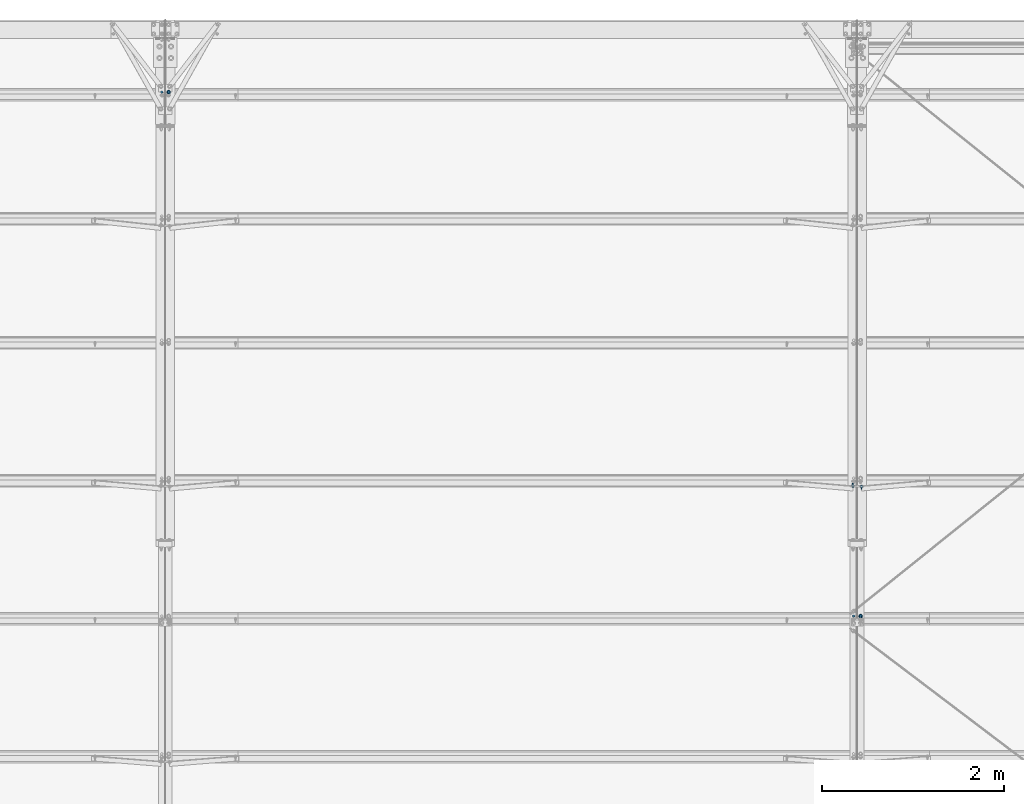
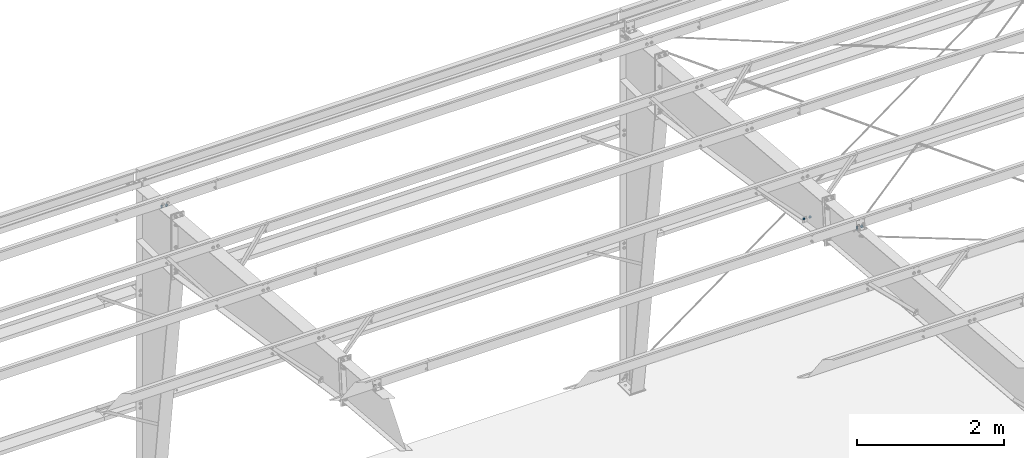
# One storey, part 162 of 185: 6 mechanical fasteners, 4 elements without a shape of their own.
"""IFC2X3 building model written with IfcOpenShell, lengths in millimetres."""

from ifc_helpers import new_model, si_unit, frame, origin_with_axes, origin_2d_with_axis, place, context, subcontext, project, spatial, polyline, circle, outline, extrude, source, transform, mapped, material, type_object, element, aggregate, save


model = new_model("IFC2X3")

# Units and contexts
model_context = context("Model", 3, precision=1e-05, world=origin_with_axes())
body_context = subcontext(model_context, "Body", "Model", "MODEL_VIEW")
ifc_project = project(units=[si_unit("LENGTHUNIT", "METRE", prefix="MILLI"), si_unit("AREAUNIT", "SQUARE_METRE"), si_unit("VOLUMEUNIT", "CUBIC_METRE"), si_unit("MASSUNIT", "GRAM", prefix="KILO"), si_unit("TIMEUNIT", "SECOND"), si_unit("PLANEANGLEUNIT", "RADIAN"), si_unit("SOLIDANGLEUNIT", "STERADIAN"), si_unit("THERMODYNAMICTEMPERATUREUNIT", "DEGREE_CELSIUS"), si_unit("LUMINOUSINTENSITYUNIT", "LUMEN")], contexts=[model_context])

# Site, building, storey
site_placement = place(None, origin_with_axes())
site = spatial("IfcSite", under=ifc_project, at=site_placement, Name="Undefined", CompositionType="ELEMENT")
building_placement = place(site_placement, origin_with_axes())
building = spatial("IfcBuilding", under=site, at=building_placement, Name="Undefined", CompositionType="ELEMENT")
storey_placement = place(building_placement, origin_with_axes())
storey = spatial("IfcBuildingStorey", under=building, at=storey_placement, Name="Undefined", CompositionType="ELEMENT", Elevation=0.0)

# Assembly, mechanical fastener
assembly_1_placement = place(storey_placement, origin_with_axes())
assembly_1 = element("IfcElementAssembly", 1, at=assembly_1_placement, inside=storey, Name="Steel Assembly", AssemblyPlace="NOTDEFINED", PredefinedType="RIGID_FRAME")
ifc_material = material(Name="Undefined")
discrete_accessory_type = type_object("IfcDiscreteAccessoryType", Name="Bolt assembly")
shared_shape_1 = source(origin_with_axes(), body_context, "Body", "SweptSolid", [
    extrude(circle(Radius=7.14374971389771, at=origin_2d_with_axis()), frame((0.0, -1.59000001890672, 0.0), z_axis=(0.0, 1.0, 0.0), x_axis=(1.0, 0.0, 0.0)), (0.0, 0.0, 1.0), 1.7),
    extrude(outline(polyline([(10.9985221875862, 0.0), (5.4992610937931, 9.52499961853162), (-5.4992610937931, 9.52499961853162), (-10.9985221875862, 0.0), (-5.4992610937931, -9.52499961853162), (5.4992610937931, -9.52499961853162), (10.9985221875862, 0.0)])), frame((0.0, -15.0837496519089, 0.0), z_axis=(0.0, 1.0, 0.0), x_axis=(1.0, 0.0, 0.0)), (0.0, 0.0, 1.0), 9.5),
    extrude(circle(Radius=6.34999990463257, at=origin_2d_with_axis()), frame((0.0, -5.5587500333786, 0.0), z_axis=(0.0, 1.0, 0.0), x_axis=(1.0, 0.0, 0.0)), (0.0, 0.0, 1.0), 38.1),
    extrude(circle(Radius=13.4937496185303, at=origin_2d_with_axis()), frame((0.0, -5.5587500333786, 0.0), z_axis=(0.0, 1.0, 0.0), x_axis=(1.0, 0.0, 0.0)), (0.0, 0.0, 1.0), 4.0),
    extrude(circle(Radius=22.2250003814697, at=origin_2d_with_axis()), frame((0.0, 0.0, 0.0), z_axis=(0.0, 1.0, 0.0), x_axis=(1.0, 0.0, 0.0)), (0.0, 0.0, 1.0), 7.9),
    extrude(outline(polyline([(12.8316099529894, 0.0), (6.4158049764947, 11.1125001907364), (-6.4158049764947, 11.1125001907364), (-12.8316099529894, 0.0), (-6.4158049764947, -11.1125001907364), (6.4158049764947, -11.1125001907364), (12.8316099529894, 0.0)])), frame((0.0, 7.93750000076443, 0.0), z_axis=(0.0, 1.0, 0.0), x_axis=(1.0, 0.0, 0.0)), (0.0, 0.0, 1.0), 12.3),
])
mechanical_fastener_1_placement = place(assembly_1_placement, frame((30051.4738455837, 26870.2303027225, 5718.25976911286), z_axis=(-0.718860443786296, -0.0577294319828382, -0.692753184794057), x_axis=(-0.695154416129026, 0.0596981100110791, 0.716377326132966)))
mechanical_fastener_1 = element("IfcMechanicalFastener", 2, at=mechanical_fastener_1_placement, type_object=discrete_accessory_type, material=ifc_material, Name="Bolt assembly", NominalDiameter=12.6999998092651, NominalLength=38.0999984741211, context=body_context, shape_type="MappedRepresentation", body=[
    mapped(shared_shape_1, transform((0.0, 0.0, 0.0))),
])
aggregate(assembly_1, [mechanical_fastener_1])

assembly_2_placement = place(storey_placement, origin_with_axes())
assembly_2 = element("IfcElementAssembly", 3, at=assembly_2_placement, inside=storey, Name="Steel Assembly", AssemblyPlace="NOTDEFINED", PredefinedType="RIGID_FRAME")
shared_shape_2 = source(origin_with_axes(), body_context, "Body", "SweptSolid", [
    extrude(circle(Radius=7.14374971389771, at=origin_2d_with_axis()), frame((0.0, 0.0, 0.0), z_axis=(0.0, 1.0, 0.0), x_axis=(1.0, 0.0, 0.0)), (0.0, 0.0, 1.0), 1.7),
    extrude(outline(polyline([(10.9985221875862, 0.0), (5.4992610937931, 9.52499961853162), (-5.4992610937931, 9.52499961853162), (-10.9985221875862, 0.0), (-5.4992610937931, -9.52499961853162), (5.4992610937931, -9.52499961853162), (10.9985221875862, 0.0)])), frame((0.0, -13.4937496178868, 0.0), z_axis=(0.0, 1.0, 0.0), x_axis=(1.0, 0.0, 0.0)), (0.0, 0.0, 1.0), 9.5),
    extrude(circle(Radius=6.34999990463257, at=origin_2d_with_axis()), frame((0.0, -3.96874999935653, 0.0), z_axis=(0.0, 1.0, 0.0), x_axis=(1.0, 0.0, 0.0)), (0.0, 0.0, 1.0), 38.1),
    extrude(circle(Radius=13.4937496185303, at=origin_2d_with_axis()), frame((0.0, -3.96874999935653, 0.0), z_axis=(0.0, 1.0, 0.0), x_axis=(1.0, 0.0, 0.0)), (0.0, 0.0, 1.0), 4.0),
    extrude(circle(Radius=22.2250003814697, at=origin_2d_with_axis()), frame((0.0, 1.5900000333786, 0.0), z_axis=(0.0, 1.0, 0.0), x_axis=(1.0, 0.0, 0.0)), (0.0, 0.0, 1.0), 7.9),
    extrude(outline(polyline([(12.8316099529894, 0.0), (6.4158049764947, 11.1125001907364), (-6.4158049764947, 11.1125001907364), (-12.8316099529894, 0.0), (-6.4158049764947, -11.1125001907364), (6.4158049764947, -11.1125001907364), (12.8316099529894, 0.0)])), frame((0.0, 9.5275000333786, 0.0), z_axis=(0.0, 1.0, 0.0), x_axis=(1.0, 0.0, 0.0)), (0.0, 0.0, 1.0), 12.3),
])
mechanical_fastener_2_placement = place(assembly_2_placement, frame((30146.5261544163, 26870.2303027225, 5718.25976911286), z_axis=(0.718860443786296, -0.0577294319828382, -0.692753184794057), x_axis=(0.695154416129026, 0.0596981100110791, 0.716377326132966)))
mechanical_fastener_2 = element("IfcMechanicalFastener", 4, at=mechanical_fastener_2_placement, type_object=discrete_accessory_type, material=ifc_material, Name="Bolt assembly", NominalDiameter=12.6999998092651, NominalLength=38.0999984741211, context=body_context, shape_type="MappedRepresentation", body=[
    mapped(shared_shape_2, transform((0.0, 0.0, 0.0))),
])
aggregate(assembly_2, [mechanical_fastener_2])

# Assembly, mechanical fasteners
assembly_3_placement = place(storey_placement, origin_with_axes())
assembly_3 = element("IfcElementAssembly", 5, at=assembly_3_placement, inside=storey, Name="Steel Assembly", AssemblyPlace="NOTDEFINED", PredefinedType="RIGID_FRAME")
shared_shape_3 = source(origin_with_axes(), body_context, "Body", "SweptSolid", [
    extrude(circle(Radius=7.14374971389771, at=origin_2d_with_axis()), frame((0.0, -0.0238014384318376, 0.0), z_axis=(0.0, 1.0, 0.0), x_axis=(1.0, 0.0, 0.0)), (0.0, 0.0, 1.0), 8.0),
    extrude(circle(Radius=7.14374971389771, at=origin_2d_with_axis()), frame((0.0, -3.08000006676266, 0.0), z_axis=(0.0, 1.0, 0.0), x_axis=(1.0, 0.0, 0.0)), (0.0, 0.0, 1.0), 3.2),
    extrude(circle(Radius=7.14374971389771, at=origin_2d_with_axis()), frame((0.0, -3.08000006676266, 0.0), z_axis=(0.0, 1.0, 0.0), x_axis=(1.0, 0.0, 0.0)), (0.0, 0.0, 1.0), 3.2),
    extrude(outline(polyline([(12.8316099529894, 0.0), (6.4158049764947, 11.1125001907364), (-6.4158049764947, 11.1125001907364), (-12.8316099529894, 0.0), (-6.4158049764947, -11.1125001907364), (6.4158049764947, -11.1125001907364), (12.8316099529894, 0.0)])), frame((0.0, -15.08625183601, 0.0), z_axis=(0.0, 1.0, 0.0), x_axis=(1.0, 0.0, 0.0)), (0.0, 0.0, 1.0), 7.9),
    extrude(circle(Radius=6.34999990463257, at=origin_2d_with_axis()), frame((0.0, -7.14875006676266, 0.0), z_axis=(0.0, 1.0, 0.0), x_axis=(1.0, 0.0, 0.0)), (0.0, 0.0, 1.0), 50.8),
    extrude(circle(Radius=13.4937496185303, at=origin_2d_with_axis()), frame((0.0, -7.14875006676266, 0.0), z_axis=(0.0, 1.0, 0.0), x_axis=(1.0, 0.0, 0.0)), (0.0, 0.0, 1.0), 4.0),
    extrude(circle(Radius=22.2250003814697, at=origin_2d_with_axis()), frame((0.0, 7.95019856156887, 0.0), z_axis=(0.0, 1.0, 0.0), x_axis=(1.0, 0.0, 0.0)), (0.0, 0.0, 1.0), 7.9),
    extrude(outline(polyline([(12.8316099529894, 0.0), (6.4158049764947, 11.1125001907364), (-6.4158049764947, 11.1125001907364), (-12.8316099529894, 0.0), (-6.4158049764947, -11.1125001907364), (6.4158049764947, -11.1125001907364), (12.8316099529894, 0.0)])), frame((0.0, 15.8876985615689, 0.0), z_axis=(0.0, 1.0, 0.0), x_axis=(1.0, 0.0, 0.0)), (0.0, 0.0, 1.0), 12.3),
])
mechanical_fastener_3_placement = place(assembly_3_placement, frame((30137.1, 25439.2546863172, 6439.15777571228), z_axis=(-1.0, 0.0, 0.0), x_axis=(0.0, 0.996545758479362, -0.0830454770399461)))
mechanical_fastener_3 = element("IfcMechanicalFastener", 6, at=mechanical_fastener_3_placement, type_object=discrete_accessory_type, material=ifc_material, Name="Bolt assembly", NominalDiameter=12.6999998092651, NominalLength=50.7999992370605, context=body_context, shape_type="MappedRepresentation", body=[
    mapped(shared_shape_3, transform((0.0, 0.0, 0.0))),
])
shared_shape_4 = source(origin_with_axes(), body_context, "Body", "SweptSolid", [
    extrude(circle(Radius=7.14374971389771, at=origin_2d_with_axis()), frame((0.0, -0.0238014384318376, 0.0), z_axis=(0.0, 1.0, 0.0), x_axis=(1.0, 0.0, 0.0)), (0.0, 0.0, 1.0), 8.0),
    extrude(circle(Radius=7.14374971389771, at=origin_2d_with_axis()), frame((0.0, -3.08000006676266, 0.0), z_axis=(0.0, 1.0, 0.0), x_axis=(1.0, 0.0, 0.0)), (0.0, 0.0, 1.0), 3.2),
    extrude(circle(Radius=7.14374971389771, at=origin_2d_with_axis()), frame((0.0, -3.08000006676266, 0.0), z_axis=(0.0, 1.0, 0.0), x_axis=(1.0, 0.0, 0.0)), (0.0, 0.0, 1.0), 3.2),
    extrude(outline(polyline([(12.8316099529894, 0.0), (6.4158049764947, 11.1125001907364), (-6.4158049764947, 11.1125001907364), (-12.8316099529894, 0.0), (-6.4158049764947, -11.1125001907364), (6.4158049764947, -11.1125001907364), (12.8316099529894, 0.0)])), frame((0.0, -15.08625183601, 0.0), z_axis=(0.0, 1.0, 0.0), x_axis=(1.0, 0.0, 0.0)), (0.0, 0.0, 1.0), 7.9),
    extrude(circle(Radius=6.34999990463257, at=origin_2d_with_axis()), frame((0.0, -7.14875006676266, 0.0), z_axis=(0.0, 1.0, 0.0), x_axis=(1.0, 0.0, 0.0)), (0.0, 0.0, 1.0), 50.8),
    extrude(circle(Radius=13.4937496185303, at=origin_2d_with_axis()), frame((0.0, -7.14875006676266, 0.0), z_axis=(0.0, 1.0, 0.0), x_axis=(1.0, 0.0, 0.0)), (0.0, 0.0, 1.0), 4.0),
    extrude(outline(polyline([(12.8316099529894, 0.0), (6.4158049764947, 11.1125001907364), (-6.4158049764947, 11.1125001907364), (-12.8316099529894, 0.0), (-6.4158049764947, -11.1125001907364), (6.4158049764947, -11.1125001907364), (12.8316099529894, 0.0)])), frame((0.0, 7.95019856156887, 0.0), z_axis=(0.0, 1.0, 0.0), x_axis=(1.0, 0.0, 0.0)), (0.0, 0.0, 1.0), 12.3),
])
mechanical_fastener_4_placement = place(assembly_3_placement, frame((30060.9, 25439.2546863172, 6439.15777571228), z_axis=(-1.0, 0.0, 0.0), x_axis=(0.0, 0.996545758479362, -0.0830454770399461)))
mechanical_fastener_4 = element("IfcMechanicalFastener", 7, at=mechanical_fastener_4_placement, type_object=discrete_accessory_type, material=ifc_material, Name="Bolt assembly", NominalDiameter=12.6999998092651, NominalLength=50.7999992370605, context=body_context, shape_type="MappedRepresentation", body=[
    mapped(shared_shape_4, transform((0.0, 0.0, 0.0))),
])
aggregate(assembly_3, [mechanical_fastener_3, mechanical_fastener_4])

assembly_4_placement = place(storey_placement, origin_with_axes())
assembly_4 = element("IfcElementAssembly", 8, at=assembly_4_placement, inside=storey, Name="Steel Assembly", AssemblyPlace="NOTDEFINED", PredefinedType="RIGID_FRAME")
shared_shape_5 = source(origin_with_axes(), body_context, "Body", "SweptSolid", [
    extrude(circle(Radius=7.14374971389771, at=origin_2d_with_axis()), frame((0.0, -0.1, 0.0), z_axis=(0.0, 1.0, 0.0), x_axis=(1.0, 0.0, 0.0)), (0.0, 0.0, 1.0), 8.1),
    extrude(circle(Radius=7.14374971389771, at=origin_2d_with_axis()), frame((0.0, -3.08000006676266, 0.0), z_axis=(0.0, 1.0, 0.0), x_axis=(1.0, 0.0, 0.0)), (0.0, 0.0, 1.0), 3.2),
    extrude(circle(Radius=7.14374971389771, at=origin_2d_with_axis()), frame((0.0, -3.08000006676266, 0.0), z_axis=(0.0, 1.0, 0.0), x_axis=(1.0, 0.0, 0.0)), (0.0, 0.0, 1.0), 3.2),
    extrude(outline(polyline([(10.9985221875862, 0.0), (5.4992610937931, 9.52499961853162), (-5.4992610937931, 9.52499961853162), (-10.9985221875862, 0.0), (-5.4992610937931, -9.52499961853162), (5.4992610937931, -9.52499961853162), (10.9985221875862, 0.0)])), frame((0.0, -16.6737496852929, 0.0), z_axis=(0.0, 1.0, 0.0), x_axis=(1.0, 0.0, 0.0)), (0.0, 0.0, 1.0), 9.5),
    extrude(circle(Radius=6.34999990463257, at=origin_2d_with_axis()), frame((0.0, -7.14875006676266, 0.0), z_axis=(0.0, 1.0, 0.0), x_axis=(1.0, 0.0, 0.0)), (0.0, 0.0, 1.0), 38.1),
    extrude(circle(Radius=13.4937496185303, at=origin_2d_with_axis()), frame((0.0, -7.14875006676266, 0.0), z_axis=(0.0, 1.0, 0.0), x_axis=(1.0, 0.0, 0.0)), (0.0, 0.0, 1.0), 4.0),
    extrude(circle(Radius=22.2250003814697, at=origin_2d_with_axis()), frame((0.0, 7.95019856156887, 0.0), z_axis=(0.0, 1.0, 0.0), x_axis=(1.0, 0.0, 0.0)), (0.0, 0.0, 1.0), 7.9),
    extrude(outline(polyline([(12.8316099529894, 0.0), (6.4158049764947, 11.1125001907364), (-6.4158049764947, 11.1125001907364), (-12.8316099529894, 0.0), (-6.4158049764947, -11.1125001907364), (6.4158049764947, -11.1125001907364), (12.8316099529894, 0.0)])), frame((0.0, 15.8876985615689, 0.0), z_axis=(0.0, 1.0, 0.0), x_axis=(1.0, 0.0, 0.0)), (0.0, 0.0, 1.0), 12.3),
])
mechanical_fastener_5_placement = place(assembly_4_placement, frame((22517.1, 31210.4504829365, 5958.22479169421), z_axis=(-1.0, 0.0, 0.0), x_axis=(0.0, 0.996545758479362, -0.0830454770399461)))
mechanical_fastener_5 = element("IfcMechanicalFastener", 9, at=mechanical_fastener_5_placement, type_object=discrete_accessory_type, material=ifc_material, Name="Bolt assembly", NominalDiameter=12.6999998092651, NominalLength=38.0999984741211, context=body_context, shape_type="MappedRepresentation", body=[
    mapped(shared_shape_5, transform((0.0, 0.0, 0.0))),
])
shared_shape_6 = source(origin_with_axes(), body_context, "Body", "SweptSolid", [
    extrude(circle(Radius=7.14374971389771, at=origin_2d_with_axis()), frame((0.0, -0.1, 0.0), z_axis=(0.0, 1.0, 0.0), x_axis=(1.0, 0.0, 0.0)), (0.0, 0.0, 1.0), 8.1),
    extrude(circle(Radius=7.14374971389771, at=origin_2d_with_axis()), frame((0.0, -3.08000006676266, 0.0), z_axis=(0.0, 1.0, 0.0), x_axis=(1.0, 0.0, 0.0)), (0.0, 0.0, 1.0), 3.2),
    extrude(circle(Radius=7.14374971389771, at=origin_2d_with_axis()), frame((0.0, -3.08000006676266, 0.0), z_axis=(0.0, 1.0, 0.0), x_axis=(1.0, 0.0, 0.0)), (0.0, 0.0, 1.0), 3.2),
    extrude(outline(polyline([(10.9985221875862, 0.0), (5.4992610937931, 9.52499961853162), (-5.4992610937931, 9.52499961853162), (-10.9985221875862, 0.0), (-5.4992610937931, -9.52499961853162), (5.4992610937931, -9.52499961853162), (10.9985221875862, 0.0)])), frame((0.0, -16.6737496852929, 0.0), z_axis=(0.0, 1.0, 0.0), x_axis=(1.0, 0.0, 0.0)), (0.0, 0.0, 1.0), 9.5),
    extrude(circle(Radius=6.34999990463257, at=origin_2d_with_axis()), frame((0.0, -7.14875006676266, 0.0), z_axis=(0.0, 1.0, 0.0), x_axis=(1.0, 0.0, 0.0)), (0.0, 0.0, 1.0), 38.1),
    extrude(circle(Radius=13.4937496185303, at=origin_2d_with_axis()), frame((0.0, -7.14875006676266, 0.0), z_axis=(0.0, 1.0, 0.0), x_axis=(1.0, 0.0, 0.0)), (0.0, 0.0, 1.0), 4.0),
    extrude(outline(polyline([(12.8316099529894, 0.0), (6.4158049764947, 11.1125001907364), (-6.4158049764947, 11.1125001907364), (-12.8316099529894, 0.0), (-6.4158049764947, -11.1125001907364), (6.4158049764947, -11.1125001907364), (12.8316099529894, 0.0)])), frame((0.0, 7.95019856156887, 0.0), z_axis=(0.0, 1.0, 0.0), x_axis=(1.0, 0.0, 0.0)), (0.0, 0.0, 1.0), 12.3),
])
mechanical_fastener_6_placement = place(assembly_4_placement, frame((22440.9, 31210.4504829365, 5958.22479169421), z_axis=(-1.0, 0.0, 0.0), x_axis=(0.0, 0.996545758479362, -0.0830454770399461)))
mechanical_fastener_6 = element("IfcMechanicalFastener", 10, at=mechanical_fastener_6_placement, type_object=discrete_accessory_type, material=ifc_material, Name="Bolt assembly", NominalDiameter=12.6999998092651, NominalLength=38.0999984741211, context=body_context, shape_type="MappedRepresentation", body=[
    mapped(shared_shape_6, transform((0.0, 0.0, 0.0))),
])
aggregate(assembly_4, [mechanical_fastener_5, mechanical_fastener_6])

save(model, "model.ifc")
